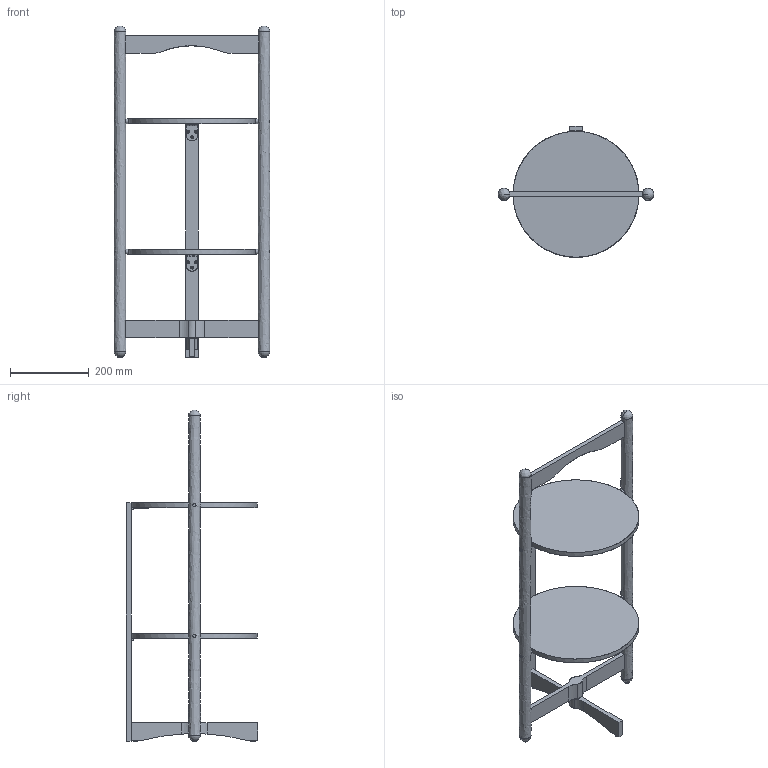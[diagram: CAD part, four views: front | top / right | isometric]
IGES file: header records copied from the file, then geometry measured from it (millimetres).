
Global section: file name: C:\Users\prell\Desktop\Florian.igs; native system: Rhinoceros ( May  7 2019 ); preprocessor: Trout Lake IGES 012 May  7 2019; date: 210908.090635; units: millimetre
Bounding box: 396 x 333.5 x 844 mm (x, y, z)
Surface area: 705682.8 mm2 (no closed solid volume)
Topology: 0 solids, 0 shells, 574 faces, 2945 edges, 2747 vertices
Faces by surface type: bspline 574
